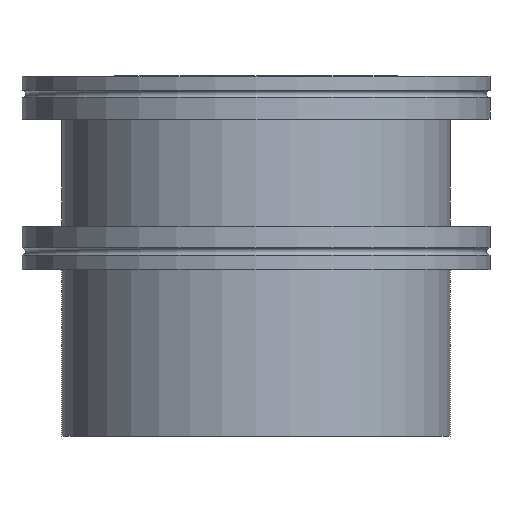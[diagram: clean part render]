
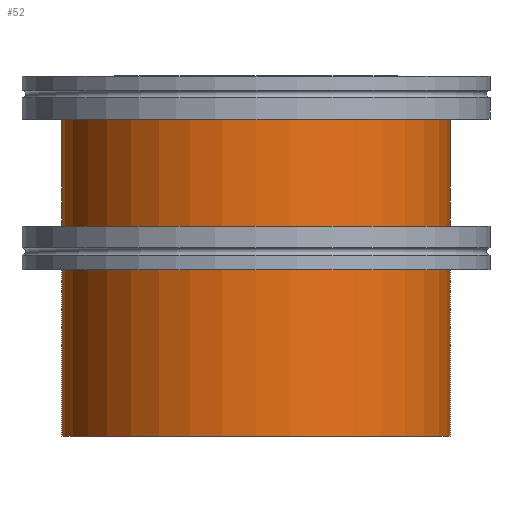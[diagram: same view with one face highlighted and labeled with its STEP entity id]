
A CAD part, front view. The second image highlights one B-rep face of the part: STEP entity #52.
In plain terms, the highlighted cylindrical face has radius 54 mm (diameter 108 mm), a full revolution.
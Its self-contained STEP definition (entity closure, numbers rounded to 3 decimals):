
#52 = ADVANCED_FACE( '', ( #90, #91 ), #92, .T. );
#90 = FACE_OUTER_BOUND( '', #122, .T. );
#91 = FACE_OUTER_BOUND( '', #123, .T. );
#92 = CYLINDRICAL_SURFACE( '', #124, 54. );
#122 = EDGE_LOOP( '', ( #164 ) );
#123 = EDGE_LOOP( '', ( #165 ) );
#124 = AXIS2_PLACEMENT_3D( '', #166, #167, #168 );
#164 = ORIENTED_EDGE( '', *, *, #213, .T. );
#165 = ORIENTED_EDGE( '', *, *, #210, .F. );
#166 = CARTESIAN_POINT( '', ( 0., 0., 46.25 ) );
#167 = DIRECTION( '', ( 0., 0., 1. ) );
#168 = DIRECTION( '', ( -1., 0., 0. ) );
#210 = EDGE_CURVE( '', #258, #258, #259, .T. );
#213 = EDGE_CURVE( '', #263, #263, #264, .T. );
#258 = VERTEX_POINT( '', #335 );
#259 = CIRCLE( '', #336, 54. );
#263 = VERTEX_POINT( '', #340 );
#264 = CIRCLE( '', #341, 54. );
#335 = CARTESIAN_POINT( '', ( 54., 0., -46.25 ) );
#336 = AXIS2_PLACEMENT_3D( '', #360, #361, #362 );
#340 = CARTESIAN_POINT( '', ( 54., 0., 46.25 ) );
#341 = AXIS2_PLACEMENT_3D( '', #366, #367, #368 );
#360 = CARTESIAN_POINT( '', ( 0., 0., -46.25 ) );
#361 = DIRECTION( '', ( 0., 0., -1. ) );
#362 = DIRECTION( '', ( 1., 0., 0. ) );
#366 = CARTESIAN_POINT( '', ( 0., 0., 46.25 ) );
#367 = DIRECTION( '', ( 0., 0., -1. ) );
#368 = DIRECTION( '', ( 1., 0., 0. ) );
